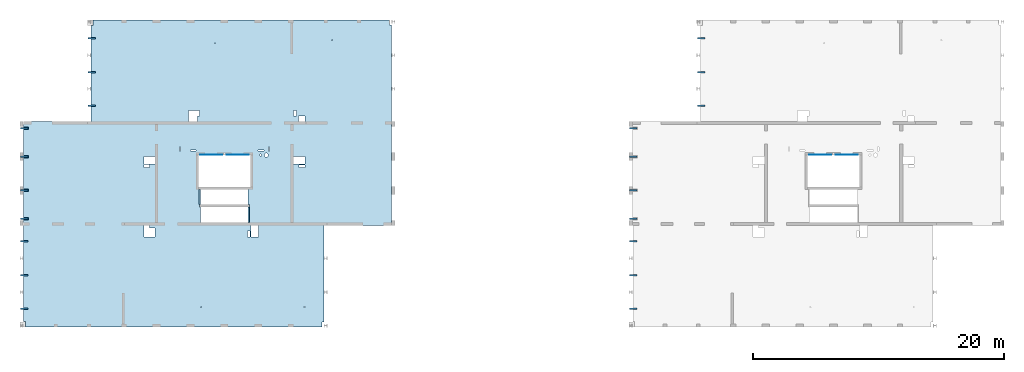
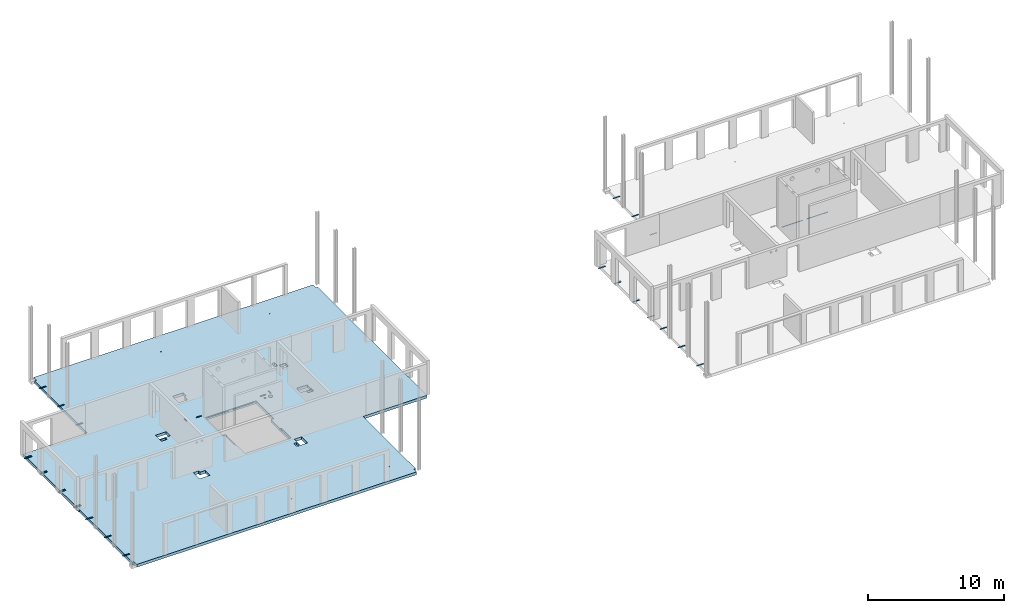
# One storey, part 5 of 10: 24 beams, 1 slab, 31 openings.
"""IFC2X3 building model written with IfcOpenShell, lengths in millimetres."""

from ifc_helpers import new_model, entity, si_unit, converted_unit, derived_unit, direction, frame, frame_2d, origin, origin_2d_with_axis, place, context, subcontext, project, spatial, polyline, rectangle, circle, outline, extrude, source, transform, mapped, material, layer, layer_set, layer_usage, type_object, type_shapes, element, save


model = new_model("IFC2X3")

# Units and contexts
model_context = context("Model", 3, precision=0.01, world=origin(), true_north=direction((6.12303176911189e-17, 1.0)))
body_context = subcontext(model_context, "Body", "Model", "MODEL_VIEW")
ifc_project = project(units=[si_unit("LENGTHUNIT", "METRE", prefix="MILLI"), si_unit("AREAUNIT", "SQUARE_METRE"), si_unit("VOLUMEUNIT", "CUBIC_METRE"), converted_unit("PLANEANGLEUNIT", "DEGREE", entity("IfcRatioMeasure", 0.0174532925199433), si_unit("PLANEANGLEUNIT", "RADIAN"), dimensions=[0, 0, 0, 0, 0, 0, 0]), si_unit("MASSUNIT", "GRAM", prefix="KILO"), derived_unit("MASSDENSITYUNIT", [(si_unit("MASSUNIT", "GRAM", prefix="KILO"), 1), (si_unit("LENGTHUNIT", "METRE"), -3)]), si_unit("TIMEUNIT", "SECOND"), si_unit("FREQUENCYUNIT", "HERTZ"), si_unit("THERMODYNAMICTEMPERATUREUNIT", "DEGREE_CELSIUS"), derived_unit("THERMALTRANSMITTANCEUNIT", [(si_unit("MASSUNIT", "GRAM", prefix="KILO"), 1), (si_unit("THERMODYNAMICTEMPERATUREUNIT", "KELVIN"), -1), (si_unit("TIMEUNIT", "SECOND"), -3)]), derived_unit("VOLUMETRICFLOWRATEUNIT", [(si_unit("LENGTHUNIT", "METRE"), 3), (si_unit("TIMEUNIT", "SECOND"), -1)]), si_unit("ELECTRICCURRENTUNIT", "AMPERE"), si_unit("ELECTRICVOLTAGEUNIT", "VOLT"), si_unit("POWERUNIT", "WATT"), si_unit("FORCEUNIT", "NEWTON", prefix="KILO"), si_unit("ILLUMINANCEUNIT", "LUX"), si_unit("LUMINOUSFLUXUNIT", "LUMEN"), si_unit("LUMINOUSINTENSITYUNIT", "CANDELA"), derived_unit("USERDEFINED", [(si_unit("MASSUNIT", "GRAM", prefix="KILO"), -1), (si_unit("LENGTHUNIT", "METRE"), -2), (si_unit("TIMEUNIT", "SECOND"), 3), (si_unit("LUMINOUSFLUXUNIT", "LUMEN"), 1)]), derived_unit("LINEARVELOCITYUNIT", [(si_unit("LENGTHUNIT", "METRE"), 1), (si_unit("TIMEUNIT", "SECOND"), -1)]), si_unit("PRESSUREUNIT", "PASCAL"), derived_unit("USERDEFINED", [(si_unit("LENGTHUNIT", "METRE"), -2), (si_unit("MASSUNIT", "GRAM", prefix="KILO"), 1), (si_unit("TIMEUNIT", "SECOND"), -2)])], contexts=[model_context])

# Site, building, storey
site_placement = place(None, origin())
site = spatial("IfcSite", under=ifc_project, at=site_placement, Name="Default", CompositionType="ELEMENT")
building_placement = place(site_placement, origin())
building = spatial("IfcBuilding", under=site, at=building_placement, Name="niet gebruiken", CompositionType="ELEMENT")
storey_placement = place(building_placement, frame((0.0, 0.0, 63090.0)))
storey = spatial("IfcBuildingStorey", under=building, at=storey_placement, Name="21 eenentwintigste verdieping", CompositionType="ELEMENT", Elevation=63090.0)

# Beams
ifc_material_1 = material(Name="NLRS_h2_staal")
beam_type_1 = type_object("IfcBeamType", Name="ligger stripstaal RECT_120x10", PredefinedType="BEAM", material=ifc_material_1)
shared_shape_1 = source(origin(), body_context, "Body", "SweptSolid", [
    extrude(rectangle(XDim=599.999999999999, YDim=120.0, at=origin_2d_with_axis()), frame((0.0, 0.0, -5.0), z_axis=(0.0, 0.0, 1.0), x_axis=(-1.0, 0.0, 0.0)), (0.0, 0.0, 1.0), 9.99999999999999),
    extrude(rectangle(XDim=599.999999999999, YDim=120.0, at=origin_2d_with_axis()), frame((0.0, 0.0, -5.0), z_axis=(0.0, 0.0, 1.0), x_axis=(-1.0, 0.0, 0.0)), (0.0, 0.0, 1.0), 9.99999999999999),
])
type_shapes(beam_type_1, [shared_shape_1])
for number, where, name in (
    (1, (27235.0, 32906.0, -85.0), "NLRS_28.11_SF_WPB_stalen ligger stripstaal_gen:ligger stripstaal RECT_120x10"),
    (2, (27235.0, 35606.0, -85.0), "NLRS_28.11_SF_WPB_stalen ligger stripstaal_gen:ligger stripstaal RECT_120x10"),
    (3, (27235.0, 30206.0, -85.0), "NLRS_28.11_SF_WPB_stalen ligger stripstaal_gen:ligger stripstaal RECT_120x10"),
    (4, (27235.0, 42356.0, -115.0), "NLRS_28.11_SF_WPB_stalen ligger stripstaal_gen:ligger stripstaal RECT_120x10"),
    (5, (27235.0, 39656.0, -115.0), "NLRS_28.11_SF_WPB_stalen ligger stripstaal_gen:ligger stripstaal RECT_120x10"),
    (6, (27235.0, 37386.0, -115.0), "NLRS_28.11_SF_WPB_stalen ligger stripstaal_gen:ligger stripstaal RECT_120x10"),
    (7, (32635.0, 49106.0, -85.0), "NLRS_28.11_SF_WPB_stalen ligger stripstaal_gen:ligger stripstaal RECT_120x10"),
    (8, (32635.0, 46406.0, -85.0), "NLRS_28.11_SF_WPB_stalen ligger stripstaal_gen:ligger stripstaal RECT_120x10"),
    (9, (32635.0, 51806.0, -85.0), "NLRS_28.11_SF_WPB_stalen ligger stripstaal_gen:ligger stripstaal RECT_120x10"),
    (10, (75835.0, 32906.0, -85.0), "NLRS_28.11_SF_WPB_stalen ligger stripstaal_gen:ligger stripstaal RECT_120x10"),
    (11, (75835.0, 35606.0, -85.0), "NLRS_28.11_SF_WPB_stalen ligger stripstaal_gen:ligger stripstaal RECT_120x10"),
    (12, (75835.0, 30206.0, -85.0), "NLRS_28.11_SF_WPB_stalen ligger stripstaal_gen:ligger stripstaal RECT_120x10"),
    (13, (75835.0, 42356.0, -115.0), "NLRS_28.11_SF_WPB_stalen ligger stripstaal_gen:ligger stripstaal RECT_120x10"),
    (14, (75835.0, 39656.0, -115.0), "NLRS_28.11_SF_WPB_stalen ligger stripstaal_gen:ligger stripstaal RECT_120x10"),
    (15, (75835.0, 37386.0, -115.0), "NLRS_28.11_SF_WPB_stalen ligger stripstaal_gen:ligger stripstaal RECT_120x10"),
    (16, (81235.0, 49106.0, -85.0), "NLRS_28.11_SF_WPB_stalen ligger stripstaal_gen:ligger stripstaal RECT_120x10"),
    (17, (81235.0, 46406.0, -85.0), "NLRS_28.11_SF_WPB_stalen ligger stripstaal_gen:ligger stripstaal RECT_120x10"),
    (18, (81235.0, 51806.0, -85.0), "NLRS_28.11_SF_WPB_stalen ligger stripstaal_gen:ligger stripstaal RECT_120x10"),
):
    element("IfcBeam", number, at=place(storey_placement, frame(where)), inside=storey, type_object=beam_type_1, material=ifc_material_1, Name=name, ObjectType="ligger stripstaal RECT_120x10", context=body_context, shape_type="MappedRepresentation", body=[
        mapped(shared_shape_1, transform((0.0, 0.0, 0.0), scale=1.0)),
    ])
beam_type_2 = type_object("IfcBeamType", Name="NLRS_28.11_SF_WPB_Halfen 40-22_gen:ligger stripstaal RECT_100x10", PredefinedType="BEAM")
for number, where, name in (
    (19, (41264.9998491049, 42496.0, -160.0), "NLRS_28.11_SF_WPB_Halfen 40-22_gen:ligger stripstaal RECT_100x10"),
    (20, (43374.999849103, 42496.0, -160.0), "NLRS_28.11_SF_WPB_Halfen 40-22_gen:ligger stripstaal RECT_100x10"),
):
    element("IfcBeam", number, at=place(storey_placement, frame(where)), inside=storey, type_object=beam_type_2, material=ifc_material_1, Name=name, ObjectType="NLRS_28.11_SF_WPB_Halfen 40-22_gen:ligger stripstaal RECT_100x10", context=body_context, shape_type="SweptSolid", body=[
        extrude(outline(polyline([(-20.0, -8.0), (-9.0, -8.0), (-9.0, 0.0), (-11.0, 0.0), (-11.0, -6.0), (-18.0, -6.0), (-18.0, 13.0), (18.0, 13.0), (18.0, -6.0), (11.0, -6.0), (11.0, 0.0), (9.0, 0.0), (9.0, -8.0), (20.0, -8.0), (20.0, 15.0), (-20.0, 15.0), (-20.0, -8.0)])), frame((0.0, 8.0, 20.0), z_axis=(1.0, 0.0, 0.0), x_axis=(0.0, 0.0, -1.0)), (0.0, 0.0, 1.0), 1760.00000000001),
    ])
beam_1_placement = place(storey_placement, frame((89865.0, 42496.0, -160.0)))
element("IfcBeam", 21, at=beam_1_placement, inside=storey, type_object=beam_type_2, material=ifc_material_1, Name="NLRS_28.11_SF_WPB_Halfen 40-22_gen:ligger stripstaal RECT_100x10", ObjectType="NLRS_28.11_SF_WPB_Halfen 40-22_gen:ligger stripstaal RECT_100x10", context=body_context, shape_type="SweptSolid", body=[
    extrude(outline(polyline([(-20.0, -8.0), (-9.0, -8.0), (-9.0, 0.0), (-11.0, 0.0), (-11.0, -6.0), (-18.0, -6.0), (-18.0, 13.0), (18.0, 13.0), (18.0, -6.0), (11.0, -6.0), (11.0, 0.0), (9.0, 0.0), (9.0, -8.0), (20.0, -8.0), (20.0, 15.0), (-20.0, 15.0), (-20.0, -8.0)])), frame((0.0, 8.0, 20.0), z_axis=(1.0, 0.0, 0.0), x_axis=(0.0, 0.0, -1.0)), (0.0, 0.0, 1.0), 1760.00000000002),
])
beam_2_placement = place(storey_placement, frame((91975.0, 42496.0, -160.0)))
element("IfcBeam", 22, at=beam_2_placement, inside=storey, type_object=beam_type_2, material=ifc_material_1, Name="NLRS_28.11_SF_WPB_Halfen 40-22_gen:ligger stripstaal RECT_100x10", ObjectType="NLRS_28.11_SF_WPB_Halfen 40-22_gen:ligger stripstaal RECT_100x10", context=body_context, shape_type="SweptSolid", body=[
    extrude(outline(polyline([(-20.0, -8.0), (-9.0, -8.0), (-9.0, 0.0), (-11.0, 0.0), (-11.0, -6.0), (-18.0, -6.0), (-18.0, 13.0), (18.0, 13.0), (18.0, -6.0), (11.0, -6.0), (11.0, 0.0), (9.0, 0.0), (9.0, -8.0), (20.0, -8.0), (20.0, 15.0), (-20.0, 15.0), (-20.0, -8.0)])), frame((0.0, 8.0, 20.0), z_axis=(1.0, 0.0, 0.0), x_axis=(0.0, 0.0, -1.0)), (0.0, 0.0, 1.0), 1760.0),
])
beam_type_3 = type_object("IfcBeamType", Name="ligger stripstaal RECT_120x10", PredefinedType="BEAM", material=ifc_material_1)
shared_shape_2 = source(origin(), body_context, "Body", "SweptSolid", [
    extrude(rectangle(XDim=120.0, YDim=600.000000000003, at=origin_2d_with_axis()), frame((0.0, 0.0, -5.0), z_axis=(0.0, 0.0, 1.0), x_axis=(0.0, 1.0, 0.0)), (0.0, 0.0, 1.0), 9.99999999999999),
    extrude(rectangle(XDim=120.0, YDim=600.000000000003, at=origin_2d_with_axis()), frame((0.0, 0.0, -5.0), z_axis=(0.0, 0.0, 1.0), x_axis=(0.0, 1.0, 0.0)), (0.0, 0.0, 1.0), 9.99999999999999),
])
type_shapes(beam_type_3, [shared_shape_2])
for number, where, name in (
    (23, (27235.0, 44626.0, -115.0), "NLRS_28.11_SF_WPB_stalen ligger stripstaal_gen:ligger stripstaal RECT_120x10"),
    (24, (75835.0, 44626.0, -115.0), "NLRS_28.11_SF_WPB_stalen ligger stripstaal_gen:ligger stripstaal RECT_120x10"),
):
    element("IfcBeam", number, at=place(storey_placement, frame(where)), inside=storey, type_object=beam_type_3, material=ifc_material_1, Name=name, ObjectType="ligger stripstaal RECT_120x10", context=body_context, shape_type="MappedRepresentation", body=[
        mapped(shared_shape_2, transform((0.0, 0.0, 0.0), scale=1.0)),
    ])

# Slab, openings
ifc_material_2 = material(Name="NLRS_f2_beton ihwg")
ifc_layer = layer(ifc_material_2, 250.0)
ifc_layer_set = layer_set([ifc_layer], Name="Floor:NLRS_23.21_FL_beton ihwg d=250_gen")
ifc_layer_usage = layer_usage(ifc_layer_set, "AXIS3", "POSITIVE", 0.0)
slab_placement = place(storey_placement, frame((27170.0, 28756.0, -340.0)))
slab = element("IfcSlab", 25, at=slab_placement, inside=storey, material=ifc_layer_usage, Name="Floor:NLRS_23.21_FL_beton ihwg d=250_gen", ObjectType="Floor:NLRS_23.21_FL_beton ihwg d=250_gen", PredefinedType="FLOOR", context=body_context, shape_type="SweptSolid", body=[
    extrude(outline(polyline([(9130.0, 12250.0), (-14530.0, 12250.0), (-14530.0, 11840.0), (-14670.0000329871, 11840.0), (-14670.0000329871, 4150.0), (-14690.0, 4150.0), (-14690.0, -4150.0), (-9290.0, -4150.0), (-9290.0, -11840.0), (-9130.0, -11840.0), (-9130.0, -12250.0), (14530.0, -12250.0), (14530.0, -11820.0), (14670.0, -11820.0), (14670.0, -4040.0), (14690.0, -4040.0), (14690.0, 4150.0), (9290.0, 4150.0), (9290.0, 11820.0), (9130.0, 11820.0), (9130.0, 12250.0)])), frame((14690.0, 12250.0, 250.0), z_axis=(0.0, 0.0, -1.0), x_axis=(-1.0, 0.0, 0.0)), (0.0, 0.0, 1.0), 250.000000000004),
])
opening_1_placement = place(storey_placement, frame((27170.0, 28756.0, -340.0)))
element("IfcOpeningElement", 26, at=opening_1_placement, cuts=slab, ObjectType="Opening", context=body_context, shape_type="SweptSolid", body=[
    extrude(circle(Radius=37.5, at=frame_2d((-7740.0, -10650.0), x_axis=(1.0, 0.0))), frame((14690.0, 12250.0, 250.0), z_axis=(0.0, 0.0, -1.0), x_axis=(-1.0, 0.0, 0.0)), (0.0, 0.0, 1.0), 250.000000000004),
])
opening_2_placement = place(storey_placement, frame((27170.0, 28756.0, -340.0)))
element("IfcOpeningElement", 27, at=opening_2_placement, cuts=slab, ObjectType="Opening", context=body_context, shape_type="SweptSolid", body=[
    extrude(circle(Radius=37.5, at=frame_2d((-9940.0, 10650.0), x_axis=(1.0, 0.0))), frame((14690.0, 12250.0, 250.0), z_axis=(0.0, 0.0, -1.0), x_axis=(-1.0, 0.0, 0.0)), (0.0, 0.0, 1.0), 250.000000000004),
])
opening_3_placement = place(storey_placement, frame((27170.0, 28756.0, -340.0)))
element("IfcOpeningElement", 28, at=opening_3_placement, cuts=slab, ObjectType="Opening", context=body_context, shape_type="SweptSolid", body=[
    extrude(circle(Radius=37.5, at=frame_2d((-590.0, 10400.0), x_axis=(1.0, 0.0))), frame((14690.0, 12250.0, 250.0), z_axis=(0.0, 0.0, -1.0), x_axis=(-1.0, 0.0, 0.0)), (0.0, 0.0, 1.0), 250.000000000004),
])
opening_4_placement = place(storey_placement, frame((27170.0, 28756.0, -340.0)))
element("IfcOpeningElement", 29, at=opening_4_placement, cuts=slab, ObjectType="Opening", context=body_context, shape_type="SweptSolid", body=[
    extrude(circle(Radius=37.5, at=frame_2d((510.0, -10650.0), x_axis=(1.0, 0.0))), frame((14690.0, 12250.0, 250.0), z_axis=(0.0, 0.0, -1.0), x_axis=(-1.0, 0.0, 0.0)), (0.0, 0.0, 1.0), 250.000000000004),
])
opening_5_placement = place(slab_placement, origin())
element("IfcOpeningElement", 30, at=opening_5_placement, cuts=slab, ObjectType="Opening", context=body_context, shape_type="SweptSolid", body=[
    extrude(rectangle(XDim=110.000000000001, YDim=1220.0, at=origin_2d_with_axis()), frame((14074.999934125, 10380.0, 210.0)), (0.0, 0.0, 1.0), 39.9999999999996),
])
opening_6_placement = place(slab_placement, origin())
element("IfcOpeningElement", 31, at=opening_6_placement, cuts=slab, ObjectType="Opening", context=body_context, shape_type="SweptSolid", body=[
    extrude(rectangle(XDim=110.000000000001, YDim=1220.0, at=origin_2d_with_axis()), frame((17985.0, 8960.0, 210.0)), (0.0, 0.0, 1.0), 39.9999999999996),
])
opening_7_placement = place(slab_placement, origin())
element("IfcOpeningElement", 32, at=opening_7_placement, cuts=slab, ObjectType="Opening", context=body_context, shape_type="SweptSolid", body=[
    extrude(rectangle(XDim=199.999999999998, YDim=400.000000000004, at=origin_2d_with_axis()), frame((200.0, 13600.0, 220.0), z_axis=(0.0, 0.0, 1.0), x_axis=(0.0, -1.0, 0.0)), (0.0, 0.0, 1.0), 30.0000000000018),
])
opening_8_placement = place(slab_placement, origin())
element("IfcOpeningElement", 33, at=opening_8_placement, cuts=slab, ObjectType="Opening", context=body_context, shape_type="SweptSolid", body=[
    extrude(rectangle(XDim=199.999999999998, YDim=400.000000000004, at=origin_2d_with_axis()), frame((200.0, 10900.0, 220.0), z_axis=(0.0, 0.0, 1.0), x_axis=(0.0, -1.0, 0.0)), (0.0, 0.0, 1.0), 30.0000000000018),
])
opening_9_placement = place(slab_placement, origin())
element("IfcOpeningElement", 34, at=opening_9_placement, cuts=slab, ObjectType="Opening", context=body_context, shape_type="SweptSolid", body=[
    extrude(rectangle(XDim=200.000000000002, YDim=400.000000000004, at=origin_2d_with_axis()), frame((200.0, 8630.0, 220.0), z_axis=(0.0, 0.0, 1.0), x_axis=(0.0, -1.0, 0.0)), (0.0, 0.0, 1.0), 30.0000000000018),
])
opening_10_placement = place(slab_placement, origin())
element("IfcOpeningElement", 35, at=opening_10_placement, cuts=slab, ObjectType="Opening", context=body_context, shape_type="SweptSolid", body=[
    extrude(rectangle(XDim=400.000000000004, YDim=199.999999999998, at=origin_2d_with_axis()), frame((200.0, 15870.0, 220.0)), (0.0, 0.0, 1.0), 30.0000000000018),
])
opening_11_placement = place(slab_placement, origin())
element("IfcOpeningElement", 36, at=opening_11_placement, cuts=slab, ObjectType="Opening", context=body_context, shape_type="SweptSolid", body=[
    extrude(rectangle(XDim=900.000000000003, YDim=729.999999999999, at=origin_2d_with_axis()), frame((13530.0, 16850.0, 0.0), z_axis=(0.0, 0.0, 1.0), x_axis=(0.0, 1.0, 0.0)), (0.0, 0.0, 1.0), 250.000000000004),
])
opening_12_placement = place(slab_placement, origin())
element("IfcOpeningElement", 37, at=opening_12_placement, cuts=slab, ObjectType="Opening", context=body_context, shape_type="SweptSolid", body=[
    extrude(rectangle(XDim=170.000000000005, YDim=450.000000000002, at=origin_2d_with_axis()), frame((13980.0, 17075.0, 0.0), z_axis=(0.0, 0.0, 1.0), x_axis=(-1.0, 0.0, 0.0)), (0.0, 0.0, 1.0), 250.000000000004),
])
opening_13_placement = place(slab_placement, origin())
element("IfcOpeningElement", 38, at=opening_13_placement, cuts=slab, ObjectType="Opening", context=body_context, shape_type="SweptSolid", body=[
    extrude(rectangle(XDim=900.000000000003, YDim=700.000000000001, at=origin_2d_with_axis()), frame((10055.0, 7550.0, 0.0), z_axis=(0.0, 0.0, 1.0), x_axis=(-1.0, 0.0, 0.0)), (0.0, 0.0, 1.0), 250.000000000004),
])
opening_14_placement = place(slab_placement, origin())
element("IfcOpeningElement", 39, at=opening_14_placement, cuts=slab, ObjectType="Opening", context=body_context, shape_type="SweptSolid", body=[
    extrude(rectangle(XDim=200.000000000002, YDim=450.000000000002, at=origin_2d_with_axis()), frame((9830.0, 8000.0, 0.0), z_axis=(0.0, 0.0, 1.0), x_axis=(0.0, -1.0, 0.0)), (0.0, 0.0, 1.0), 250.000000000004),
])
opening_15_placement = place(slab_placement, origin())
element("IfcOpeningElement", 40, at=opening_15_placement, cuts=slab, ObjectType="Opening", context=body_context, shape_type="SweptSolid", body=[
    extrude(rectangle(XDim=900.000000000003, YDim=600.000000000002, at=origin_2d_with_axis()), frame((10055.0, 13330.0, 0.0), z_axis=(0.0, 0.0, 1.0), x_axis=(-1.0, 0.0, 0.0)), (0.0, 0.0, 1.0), 250.000000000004),
])
opening_16_placement = place(slab_placement, origin())
element("IfcOpeningElement", 41, at=opening_16_placement, cuts=slab, ObjectType="Opening", context=body_context, shape_type="SweptSolid", body=[
    extrude(rectangle(XDim=450.000000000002, YDim=499.999999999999, at=origin_2d_with_axis()), frame((22205.0, 16625.0, 0.0), z_axis=(0.0, 0.0, 1.0), x_axis=(0.0, 1.0, 0.0)), (0.0, 0.0, 1.0), 250.000000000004),
])
opening_17_placement = place(slab_placement, origin())
element("IfcOpeningElement", 42, at=opening_17_placement, cuts=slab, ObjectType="Opening", context=body_context, shape_type="SweptSolid", body=[
    extrude(rectangle(XDim=900.000000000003, YDim=600.000000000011, at=origin_2d_with_axis()), frame((18459.9818996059, 7650.0, 0.0), z_axis=(0.0, 0.0, 1.0), x_axis=(0.0, 1.0, 0.0)), (0.0, 0.0, 1.0), 250.000000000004),
])
opening_18_placement = place(slab_placement, origin())
element("IfcOpeningElement", 43, at=opening_18_placement, cuts=slab, ObjectType="Opening", context=body_context, shape_type="SweptSolid", body=[
    extrude(rectangle(XDim=900.000000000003, YDim=600.000000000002, at=origin_2d_with_axis()), frame((22005.0, 13330.0, 0.0), z_axis=(0.0, 0.0, 1.0), x_axis=(-1.0, 0.0, 0.0)), (0.0, 0.0, 1.0), 250.000000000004),
])
opening_19_placement = place(slab_placement, origin())
element("IfcOpeningElement", 44, at=opening_19_placement, cuts=slab, ObjectType="Opening", context=body_context, shape_type="SweptSolid", body=[
    extrude(rectangle(XDim=1760.00000000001, YDim=23.0000000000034, at=origin_2d_with_axis()), frame((14974.9998491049, 13751.4999999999, 180.0)), (0.0, 0.0, 1.0), 40.0000000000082),
])
opening_20_placement = place(slab_placement, origin())
element("IfcOpeningElement", 45, at=opening_20_placement, cuts=slab, ObjectType="Opening", context=body_context, shape_type="SweptSolid", body=[
    extrude(rectangle(XDim=1760.00000000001, YDim=23.0000000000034, at=origin_2d_with_axis()), frame((17084.999849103, 13751.4999999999, 180.0)), (0.0, 0.0, 1.0), 40.0000000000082),
])
opening_21_placement = place(slab_placement, origin())
element("IfcOpeningElement", 46, at=opening_21_placement, cuts=slab, ObjectType="Opening", context=body_context, shape_type="SweptSolid", body=[
    extrude(rectangle(XDim=100.000000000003, YDim=340.000000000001, at=origin_2d_with_axis()), frame((12485.0, 14210.0, 0.0), z_axis=(0.0, 0.0, 1.0), x_axis=(-1.0, 0.0, 0.0)), (0.0, 0.0, 1.0), 250.000000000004),
])
opening_22_placement = place(slab_placement, origin())
element("IfcOpeningElement", 47, at=opening_22_placement, cuts=slab, ObjectType="Opening", context=body_context, shape_type="SweptSolid", body=[
    extrude(rectangle(XDim=100.000000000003, YDim=440.000000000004, at=origin_2d_with_axis()), frame((13535.0, 14090.0, 0.0), z_axis=(0.0, 0.0, 1.0), x_axis=(0.0, -1.0, 0.0)), (0.0, 0.0, 1.0), 250.000000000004),
])
opening_23_placement = place(slab_placement, origin())
element("IfcOpeningElement", 48, at=opening_23_placement, cuts=slab, ObjectType="Opening", context=body_context, shape_type="SweptSolid", body=[
    extrude(rectangle(XDim=100.000000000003, YDim=340.000000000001, at=origin_2d_with_axis()), frame((19595.0, 14210.0, 0.0), z_axis=(0.0, 0.0, 1.0), x_axis=(-1.0, 0.0, 0.0)), (0.0, 0.0, 1.0), 250.000000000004),
])
opening_24_placement = place(slab_placement, origin())
element("IfcOpeningElement", 49, at=opening_24_placement, cuts=slab, ObjectType="Opening", context=body_context, shape_type="SweptSolid", body=[
    extrude(rectangle(XDim=100.000000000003, YDim=490.000000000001, at=origin_2d_with_axis()), frame((18955.0, 14090.0, 0.0), z_axis=(0.0, 0.0, 1.0), x_axis=(0.0, -1.0, 0.0)), (0.0, 0.0, 1.0), 250.000000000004),
])
opening_25_placement = place(slab_placement, origin())
element("IfcOpeningElement", 50, at=opening_25_placement, cuts=slab, ObjectType="Opening", context=body_context, shape_type="SweptSolid", body=[
    extrude(rectangle(XDim=220.000000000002, YDim=450.000000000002, at=origin_2d_with_axis()), frame((21665.0, 17075.0, 0.0), z_axis=(0.0, 0.0, 1.0), x_axis=(-1.0, 0.0, 0.0)), (0.0, 0.0, 1.0), 250.000000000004),
])
opening_26_placement = place(slab_placement, origin())
element("IfcOpeningElement", 51, at=opening_26_placement, cuts=slab, ObjectType="Opening", context=body_context, shape_type="SweptSolid", body=[
    extrude(rectangle(XDim=220.000000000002, YDim=450.000000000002, at=origin_2d_with_axis()), frame((22230.0, 12840.0, 0.0), z_axis=(0.0, 0.0, 1.0), x_axis=(0.0, -1.0, 0.0)), (0.0, 0.0, 1.0), 250.000000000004),
])
opening_27_placement = place(slab_placement, origin())
element("IfcOpeningElement", 52, at=opening_27_placement, cuts=slab, ObjectType="Opening", context=body_context, shape_type="SweptSolid", body=[
    extrude(rectangle(XDim=220.000000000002, YDim=450.000000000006, at=origin_2d_with_axis()), frame((17970.0, 7425.0, 0.0)), (0.0, 0.0, 1.0), 250.000000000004),
])
opening_28_placement = place(slab_placement, origin())
element("IfcOpeningElement", 53, at=opening_28_placement, cuts=slab, ObjectType="Opening", context=body_context, shape_type="SweptSolid", body=[
    extrude(rectangle(XDim=230.0, YDim=450.000000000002, at=origin_2d_with_axis()), frame((9830.0000865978, 12845.0002270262, 0.0), z_axis=(0.0, 0.0, 1.0), x_axis=(0.0, -1.0, 0.0)), (0.0, 0.0, 1.0), 250.000000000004),
])
opening_29_placement = place(slab_placement, origin())
element("IfcOpeningElement", 54, at=opening_29_placement, cuts=slab, ObjectType="Opening", context=body_context, shape_type="SweptSolid", body=[
    extrude(circle(Radius=80.0, at=origin_2d_with_axis()), frame((18930.0, 13720.0, 0.0)), (0.0, 0.0, 1.0), 250.000000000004),
])
opening_30_placement = place(slab_placement, origin())
element("IfcOpeningElement", 55, at=opening_30_placement, cuts=slab, ObjectType="Opening", context=body_context, shape_type="SweptSolid", body=[
    extrude(circle(Radius=157.5, at=origin_2d_with_axis()), frame((19380.0, 13720.0, 0.0)), (0.0, 0.0, 1.0), 250.000000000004),
])
opening_31_placement = place(slab_placement, frame((16030.0, 10378.7499999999, 250.0)))
element("IfcOpeningElement", 56, at=opening_31_placement, cuts=slab, Name="Floor:NLRS_23.21_FL_beton ihwg d=250_gen:2", ObjectType="Opening", context=body_context, shape_type="SweptSolid", body=[
    extrude(outline(polyline([(-751.250000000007, 1899.99999180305), (-751.250000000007, 2135.00002468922), (-3361.24999999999, 2135.00002468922), (-3361.24999999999, -2134.99997530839), (-751.250000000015, -2134.99997530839), (-751.250000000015, -1900.00004118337), (608.75, -1900.00004118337), (608.75, -1999.99997531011), (808.750000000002, -1999.99997531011), (808.750000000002, -1900.00004118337), (2028.75, -1900.00004118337), (2028.75, 1899.99999180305), (808.750000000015, 1899.99999180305), (808.750000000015, 2000.00002468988), (608.750000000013, 2000.00002468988), (608.750000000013, 1899.99999180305), (-751.250000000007, 1899.99999180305)])), frame((0.0, 0.0, 0.0), z_axis=(0.0, 0.0, 1.0), x_axis=(0.0, -1.0, 0.0)), (0.0, 0.0, -1.0), 250.000000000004),
])

save(model, "model.ifc")
